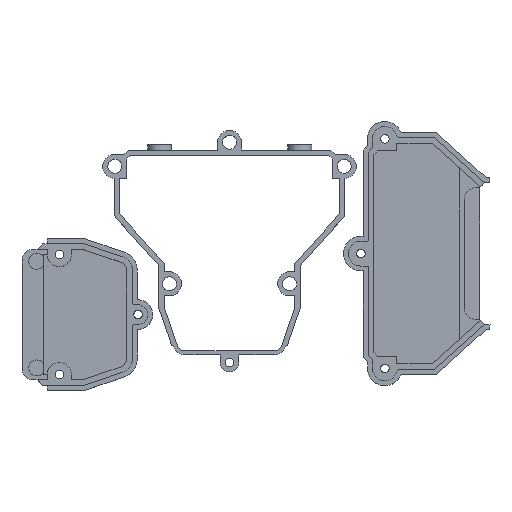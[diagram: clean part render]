
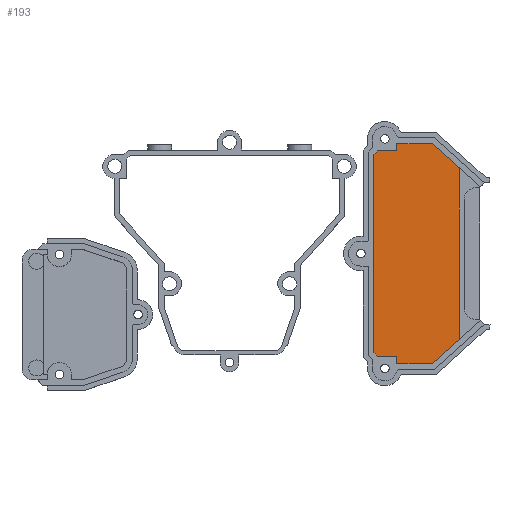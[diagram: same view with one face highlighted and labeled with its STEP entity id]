
A CAD part, top view. The second image highlights one B-rep face of the part: STEP entity #193.
In plain terms, the highlighted planar face has unit normal (0, 0, 1).
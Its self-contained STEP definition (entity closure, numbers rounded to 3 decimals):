
#193=ADVANCED_FACE('',(#648),#649,.F.);
#648=FACE_OUTER_BOUND('',#1330,.T.);
#649=PLANE('',#1331);
#1330=EDGE_LOOP('',(#2813,#2814,#2815,#2816,#2817,#2818,#2819,#2820,#2821,#2822,#2823,#2824));
#1331=AXIS2_PLACEMENT_3D('',#2825,#2826,#2827);
#2813=ORIENTED_EDGE('',*,*,#4877,.T.);
#2814=ORIENTED_EDGE('',*,*,#4846,.T.);
#2815=ORIENTED_EDGE('',*,*,#4907,.T.);
#2816=ORIENTED_EDGE('',*,*,#4905,.T.);
#2817=ORIENTED_EDGE('',*,*,#4903,.T.);
#2818=ORIENTED_EDGE('',*,*,#4901,.T.);
#2819=ORIENTED_EDGE('',*,*,#4899,.T.);
#2820=ORIENTED_EDGE('',*,*,#4897,.T.);
#2821=ORIENTED_EDGE('',*,*,#4895,.T.);
#2822=ORIENTED_EDGE('',*,*,#4893,.T.);
#2823=ORIENTED_EDGE('',*,*,#4891,.T.);
#2824=ORIENTED_EDGE('',*,*,#4875,.T.);
#2825=CARTESIAN_POINT('',(70.873,40.824,1.5));
#2826=DIRECTION('',(0.,0.,-1.0));
#2827=DIRECTION('',(0.,-1.0,0.));
#4846=EDGE_CURVE('',#5940,#5938,#5941,.T.);
#4875=EDGE_CURVE('',#5977,#5975,#5978,.T.);
#4877=EDGE_CURVE('',#5975,#5940,#5980,.F.);
#4891=EDGE_CURVE('',#5995,#5977,#5996,.T.);
#4893=EDGE_CURVE('',#5998,#5995,#5999,.T.);
#4895=EDGE_CURVE('',#6001,#5998,#6002,.T.);
#4897=EDGE_CURVE('',#6004,#6001,#6005,.T.);
#4899=EDGE_CURVE('',#6007,#6004,#6008,.T.);
#4901=EDGE_CURVE('',#6010,#6007,#6011,.T.);
#4903=EDGE_CURVE('',#6013,#6010,#6014,.T.);
#4905=EDGE_CURVE('',#6016,#6013,#6017,.T.);
#4907=EDGE_CURVE('',#5938,#6016,#6019,.T.);
#5938=VERTEX_POINT('',#7625);
#5940=VERTEX_POINT('',#7628);
#5941=LINE('',#7629,#7630);
#5975=VERTEX_POINT('',#7689);
#5977=VERTEX_POINT('',#7692);
#5978=LINE('',#7693,#7694);
#5980=LINE('',#7697,#7698);
#5995=VERTEX_POINT('',#7726);
#5996=LINE('',#7727,#7728);
#5998=VERTEX_POINT('',#7731);
#5999=LINE('',#7732,#7733);
#6001=VERTEX_POINT('',#7736);
#6002=LINE('',#7737,#7738);
#6004=VERTEX_POINT('',#7741);
#6005=LINE('',#7742,#7743);
#6007=VERTEX_POINT('',#7746);
#6008=LINE('',#7747,#7748);
#6010=VERTEX_POINT('',#7751);
#6011=LINE('',#7752,#7753);
#6013=VERTEX_POINT('',#7756);
#6014=LINE('',#7757,#7758);
#6016=VERTEX_POINT('',#7761);
#6017=LINE('',#7762,#7763);
#6019=LINE('',#7766,#7767);
#7625=CARTESIAN_POINT('',(75.971,82.074,1.5));
#7628=CARTESIAN_POINT('',(86.107,72.947,1.5));
#7629=CARTESIAN_POINT('',(89.481,69.909,1.5));
#7630=VECTOR('',#9548,25.4);
#7689=CARTESIAN_POINT('',(86.107,8.7,1.5));
#7692=CARTESIAN_POINT('',(75.971,-0.426,1.5));
#7693=CARTESIAN_POINT('',(89.481,11.738,1.5));
#7694=VECTOR('',#9581,25.4);
#7697=CARTESIAN_POINT('',(86.107,47.954,1.5));
#7698=VECTOR('',#9583,25.4);
#7726=CARTESIAN_POINT('',(62.707,-0.426,1.5));
#7727=CARTESIAN_POINT('',(70.106,-0.426,1.5));
#7728=VECTOR('',#9597,25.4);
#7731=CARTESIAN_POINT('',(62.707,2.324,1.5));
#7732=CARTESIAN_POINT('',(62.707,20.886,1.5));
#7733=VECTOR('',#9599,25.4);
#7736=CARTESIAN_POINT('',(55.457,2.324,1.5));
#7737=CARTESIAN_POINT('',(64.978,2.324,1.5));
#7738=VECTOR('',#9601,25.4);
#7741=CARTESIAN_POINT('',(54.109,3.672,1.5));
#7742=CARTESIAN_POINT('',(49.349,8.432,1.5));
#7743=VECTOR('',#9603,25.4);
#7746=CARTESIAN_POINT('',(54.109,77.975,1.5));
#7747=CARTESIAN_POINT('',(54.109,40.824,1.5));
#7748=VECTOR('',#9605,25.4);
#7751=CARTESIAN_POINT('',(55.457,79.324,1.5));
#7752=CARTESIAN_POINT('',(49.349,73.216,1.5));
#7753=VECTOR('',#9607,25.4);
#7756=CARTESIAN_POINT('',(62.707,79.324,1.5));
#7757=CARTESIAN_POINT('',(64.978,79.324,1.5));
#7758=VECTOR('',#9609,25.4);
#7761=CARTESIAN_POINT('',(62.707,82.074,1.5));
#7762=CARTESIAN_POINT('',(62.707,60.761,1.5));
#7763=VECTOR('',#9611,25.4);
#7766=CARTESIAN_POINT('',(70.106,82.074,1.5));
#7767=VECTOR('',#9613,25.4);
#9548=DIRECTION('',(-0.743,0.669,0.));
#9581=DIRECTION('',(0.743,0.669,0.));
#9583=DIRECTION('',(0.,-1.0,0.));
#9597=DIRECTION('',(1.0,0.,0.));
#9599=DIRECTION('',(0.,-1.0,0.));
#9601=DIRECTION('',(1.0,0.,0.));
#9603=DIRECTION('',(0.707,-0.707,0.));
#9605=DIRECTION('',(0.,-1.0,0.));
#9607=DIRECTION('',(-0.707,-0.707,0.));
#9609=DIRECTION('',(-1.0,0.,0.));
#9611=DIRECTION('',(0.,-1.0,0.));
#9613=DIRECTION('',(-1.0,0.,0.));
